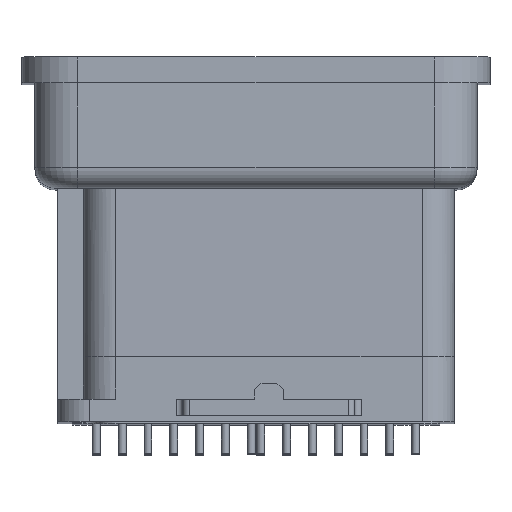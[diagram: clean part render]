
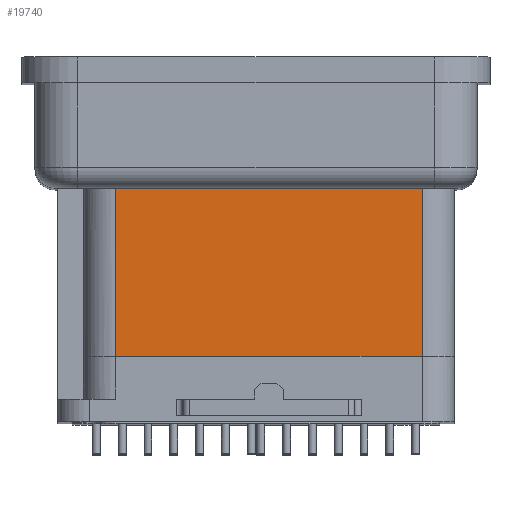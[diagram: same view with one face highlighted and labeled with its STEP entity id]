
A CAD part, top view. The second image highlights one B-rep face of the part: STEP entity #19740.
In plain terms, the highlighted planar face has unit normal (0, -0.012, 1).
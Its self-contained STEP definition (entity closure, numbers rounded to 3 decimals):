
#1677=DIRECTION('',(1.,0.,0.));
#1678=VECTOR('',#1677,14.25);
#1679=CARTESIAN_POINT('',(-13.395,-4.9,25.721));
#1680=LINE('',#1679,#1678);
#1687=CARTESIAN_POINT('',(-13.395,-4.9,25.721));
#2455=DIRECTION('',(0.,1.,0.012));
#2456=VECTOR('',#2455,7.821);
#2457=CARTESIAN_POINT('',(-13.395,-12.72,25.625));
#2458=LINE('',#2457,#2456);
#2459=DIRECTION('',(1.,0.,0.));
#2460=VECTOR('',#2459,14.25);
#2461=CARTESIAN_POINT('',(-13.395,-12.72,25.625));
#2462=LINE('',#2461,#2460);
#2473=DIRECTION('',(0.,-1.,-0.012));
#2474=VECTOR('',#2473,7.821);
#2475=CARTESIAN_POINT('',(0.855,-4.9,
25.721));
#2476=LINE('',#2475,#2474);
#13020=VERTEX_POINT('',#1687);
#13021=CARTESIAN_POINT('',(0.855,-4.9,
25.721));
#13022=VERTEX_POINT('',#13021);
#13603=CARTESIAN_POINT('',(-13.395,-12.72,25.625));
#13605=VERTEX_POINT('',#13603);
#13606=CARTESIAN_POINT('',(0.855,-12.72,25.625));
#13607=VERTEX_POINT('',#13606);
#19728=CARTESIAN_POINT('',(0.2,-12.72,25.625));
#19729=DIRECTION('',(0.,-0.012,1.));
#19730=DIRECTION('',(1.,0.,0.));
#19731=AXIS2_PLACEMENT_3D('',#19728,#19729,#19730);
#19732=PLANE('',#19731);
#19733=ORIENTED_EDGE('',*,*,#18787,.T.);
#19735=ORIENTED_EDGE('',*,*,#19734,.T.);
#19736=ORIENTED_EDGE('',*,*,#19271,.F.);
#19737=ORIENTED_EDGE('',*,*,#19723,.T.);
#19738=EDGE_LOOP('',(#19733,#19735,#19736,#19737));
#19739=FACE_OUTER_BOUND('',#19738,.F.);
#19740=ADVANCED_FACE('',(#19739),#19732,.T.);
#18787=EDGE_CURVE('',#13020,#13022,#1680,.T.);
#19271=EDGE_CURVE('',#13605,#13607,#2462,.T.);
#19723=EDGE_CURVE('',#13605,#13020,#2458,.T.);
#19734=EDGE_CURVE('',#13022,#13607,#2476,.T.);
